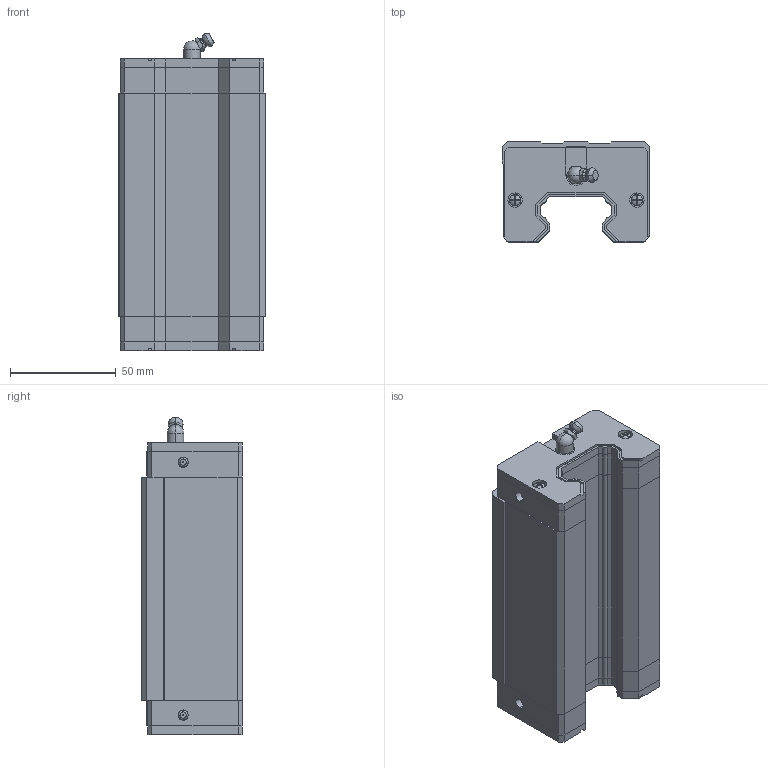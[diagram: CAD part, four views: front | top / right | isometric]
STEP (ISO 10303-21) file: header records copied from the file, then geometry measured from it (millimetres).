
FILE_DESCRIPTION (( 'STEP AP203' ), '1' );
FILE_NAME ('HGH35HA.STEP', '2021-10-25T04:28:35', ( '微软用户' ), ( '微软中国' ), 'SwSTEP 2.0', 'SolidWorks 2018', '' );
FILE_SCHEMA (( 'CONFIG_CONTROL_DESIGN' ));
Length unit declared in the file: millimetre
Products named in the file (3): GHH35HA1R200Z0CI_1_GHH35HA^HGH35HA(2)_HGH35HA; HGH35HA(2)^HGH35HA; HGH35HA
Assembly tree (2 placements, depth 3):
  HGH35HA
    HGH35HA(2)^HGH35HA
      GHH35HA1R200Z0CI_1_GHH35HA^HGH35HA(2)_HGH35HA
Bounding box: 70 x 47.6 x 150.2 mm (x, y, z)
Volume: 353266.1 mm3; surface area: 65206.6 mm2
Topology: 5 solids, 5 shells, 444 faces, 1162 edges, 750 vertices
Faces by surface type: plane 290, cylinder 88, cone 31, torus 25, sphere 10
Entity records: 14206 total; most frequent: CARTESIAN_POINT 2808, DIRECTION 2339, ORIENTED_EDGE 2302, EDGE_CURVE 1151, VECTOR 791, LINE 791, AXIS2_PLACEMENT_3D 774, VERTEX_POINT 749
